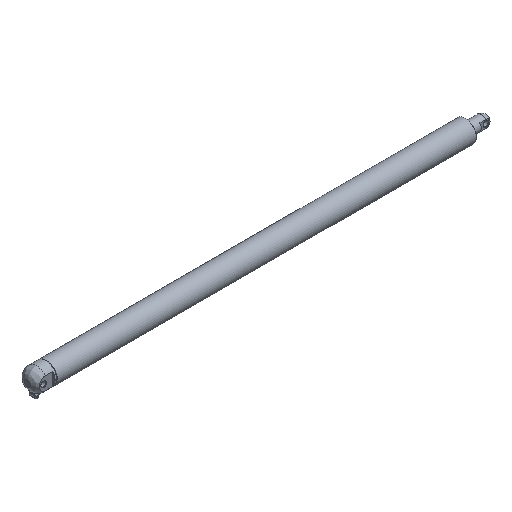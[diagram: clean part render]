
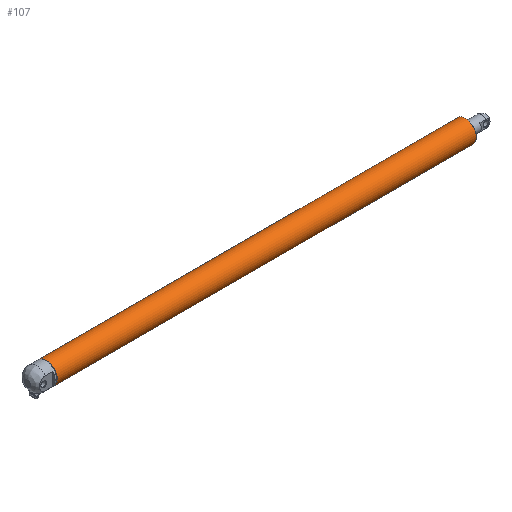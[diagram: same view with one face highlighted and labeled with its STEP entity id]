
A CAD part, isometric view. The second image highlights one B-rep face of the part: STEP entity #107.
In plain terms, the highlighted cylindrical face has radius 17.5 mm (diameter 35 mm), a full revolution.
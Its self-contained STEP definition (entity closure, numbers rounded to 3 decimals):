
#107 = ADVANCED_FACE( '', ( #262, #263 ), #264, .T. );
#262 = FACE_OUTER_BOUND( '', #480, .T. );
#263 = FACE_OUTER_BOUND( '', #481, .T. );
#264 = CYLINDRICAL_SURFACE( '', #482, 17.5 );
#480 = EDGE_LOOP( '', ( #796 ) );
#481 = EDGE_LOOP( '', ( #797 ) );
#482 = AXIS2_PLACEMENT_3D( '', #798, #799, #800 );
#796 = ORIENTED_EDGE( '', *, *, #1225, .T. );
#797 = ORIENTED_EDGE( '', *, *, #1250, .T. );
#798 = CARTESIAN_POINT( '', ( 676., 0., 0. ) );
#799 = DIRECTION( '', ( 1., 0., 0. ) );
#800 = DIRECTION( '', ( 0., 0., 1. ) );
#1225 = EDGE_CURVE( '', #1421, #1421, #1422, .F. );
#1250 = EDGE_CURVE( '', #1464, #1464, #1465, .T. );
#1421 = VERTEX_POINT( '', #1702 );
#1422 = CIRCLE( '', #1703, 17.5 );
#1464 = VERTEX_POINT( '', #1752 );
#1465 = CIRCLE( '', #1753, 17.5 );
#1702 = CARTESIAN_POINT( '', ( 0.5, 0., 17.5 ) );
#1703 = AXIS2_PLACEMENT_3D( '', #2256, #2257, #2258 );
#1752 = CARTESIAN_POINT( '', ( 675.5, 0., 17.5 ) );
#1753 = AXIS2_PLACEMENT_3D( '', #2299, #2300, #2301 );
#2256 = CARTESIAN_POINT( '', ( 0.5, 0., 0. ) );
#2257 = DIRECTION( '', ( -1., 0., 0. ) );
#2258 = DIRECTION( '', ( 0., 0., 1. ) );
#2299 = CARTESIAN_POINT( '', ( 675.5, 0., 0. ) );
#2300 = DIRECTION( '', ( -1., 0., 0. ) );
#2301 = DIRECTION( '', ( 0., 0., 1. ) );
